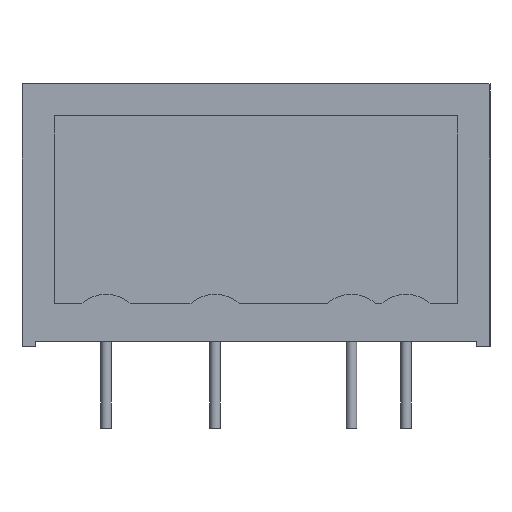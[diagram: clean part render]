
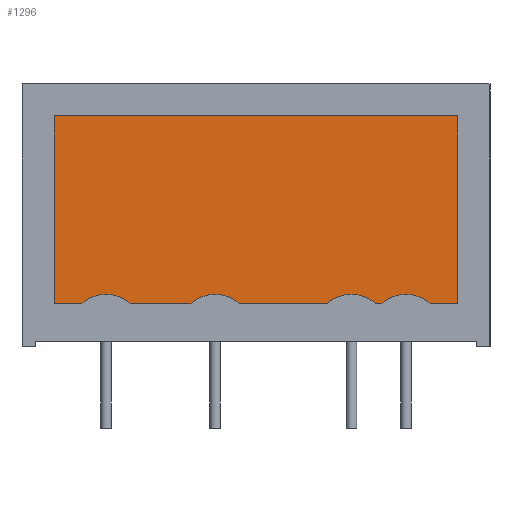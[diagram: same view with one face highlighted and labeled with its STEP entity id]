
A CAD part, left-side view. The second image highlights one B-rep face of the part: STEP entity #1296.
In plain terms, the highlighted planar face has unit normal (-1, 0, 0).
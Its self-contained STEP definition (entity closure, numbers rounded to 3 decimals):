
#990=CARTESIAN_POINT('',(-1.735,-6.645,4.));
#991=VERTEX_POINT('',#990);
#992=CARTESIAN_POINT('',(-1.735,1.565,4.));
#993=VERTEX_POINT('',#992);
#994=CARTESIAN_POINT('',(-1.735,-6.645,4.));
#995=DIRECTION('',(0.0,1.0,0.0));
#996=VECTOR('',#995,8.21);
#997=LINE('',#994,#996);
#998=EDGE_CURVE('',#991,#993,#997,.T.);
#1021=CARTESIAN_POINT('',(-1.735,6.055,4.));
#1022=VERTEX_POINT('',#1021);
#1023=CARTESIAN_POINT('',(-1.735,3.81,1.65));
#1024=DIRECTION('',(-1.0,0.0,0.0));
#1025=DIRECTION('',(0.0,0.0,1.0));
#1026=AXIS2_PLACEMENT_3D('',#1023,#1024,#1025);
#1027=CIRCLE('',#1026,3.25);
#1028=EDGE_CURVE('',#993,#1022,#1027,.T.);
#1046=CARTESIAN_POINT('',(-1.735,11.725,4.));
#1047=VERTEX_POINT('',#1046);
#1048=CARTESIAN_POINT('',(-1.735,6.055,4.));
#1049=DIRECTION('',(0.0,1.0,0.0));
#1050=VECTOR('',#1049,5.67);
#1051=LINE('',#1048,#1050);
#1052=EDGE_CURVE('',#1022,#1047,#1051,.T.);
#1070=CARTESIAN_POINT('',(-1.735,16.215,4.));
#1071=VERTEX_POINT('',#1070);
#1072=CARTESIAN_POINT('',(-1.735,13.97,1.65));
#1073=DIRECTION('',(-1.0,0.0,0.0));
#1074=DIRECTION('',(0.0,0.0,1.0));
#1075=AXIS2_PLACEMENT_3D('',#1072,#1073,#1074);
#1076=CIRCLE('',#1075,3.25);
#1077=EDGE_CURVE('',#1047,#1071,#1076,.T.);
#1095=CARTESIAN_POINT('',(-1.735,18.8,4.));
#1096=VERTEX_POINT('',#1095);
#1097=CARTESIAN_POINT('',(-1.735,16.215,4.));
#1098=DIRECTION('',(0.0,1.0,0.0));
#1099=VECTOR('',#1098,2.585);
#1100=LINE('',#1097,#1099);
#1101=EDGE_CURVE('',#1071,#1096,#1100,.T.);
#1119=CARTESIAN_POINT('',(-1.735,18.8,21.5));
#1120=VERTEX_POINT('',#1119);
#1121=CARTESIAN_POINT('',(-1.735,18.8,4.));
#1122=DIRECTION('',(0.0,0.0,1.0));
#1123=VECTOR('',#1122,17.5);
#1124=LINE('',#1121,#1123);
#1125=EDGE_CURVE('',#1096,#1120,#1124,.T.);
#1143=CARTESIAN_POINT('',(-1.735,-18.8,21.5));
#1144=VERTEX_POINT('',#1143);
#1145=CARTESIAN_POINT('',(-1.735,18.8,21.5));
#1146=DIRECTION('',(0.0,-1.0,0.0));
#1147=VECTOR('',#1146,37.6);
#1148=LINE('',#1145,#1147);
#1149=EDGE_CURVE('',#1120,#1144,#1148,.T.);
#1167=CARTESIAN_POINT('',(-1.735,-18.8,4.));
#1168=VERTEX_POINT('',#1167);
#1169=CARTESIAN_POINT('',(-1.735,-18.8,21.5));
#1170=DIRECTION('',(0.0,0.0,-1.0));
#1171=VECTOR('',#1170,17.5);
#1172=LINE('',#1169,#1171);
#1173=EDGE_CURVE('',#1144,#1168,#1172,.T.);
#1191=CARTESIAN_POINT('',(-1.735,-16.215,4.));
#1192=VERTEX_POINT('',#1191);
#1193=CARTESIAN_POINT('',(-1.735,-18.8,4.));
#1194=DIRECTION('',(0.0,1.0,0.0));
#1195=VECTOR('',#1194,2.585);
#1196=LINE('',#1193,#1195);
#1197=EDGE_CURVE('',#1168,#1192,#1196,.T.);
#1215=CARTESIAN_POINT('',(-1.735,-11.725,4.));
#1216=VERTEX_POINT('',#1215);
#1217=CARTESIAN_POINT('',(-1.735,-13.97,1.65));
#1218=DIRECTION('',(-1.0,0.0,0.0));
#1219=DIRECTION('',(0.0,0.0,1.0));
#1220=AXIS2_PLACEMENT_3D('',#1217,#1218,#1219);
#1221=CIRCLE('',#1220,3.25);
#1222=EDGE_CURVE('',#1192,#1216,#1221,.T.);
#1240=CARTESIAN_POINT('',(-1.735,-11.135,4.));
#1241=VERTEX_POINT('',#1240);
#1242=CARTESIAN_POINT('',(-1.735,-11.725,4.));
#1243=DIRECTION('',(0.0,1.0,0.0));
#1244=VECTOR('',#1243,0.59);
#1245=LINE('',#1242,#1244);
#1246=EDGE_CURVE('',#1216,#1241,#1245,.T.);
#1264=CARTESIAN_POINT('',(-1.735,-8.89,1.65));
#1265=DIRECTION('',(-1.0,0.0,0.0));
#1266=DIRECTION('',(0.0,0.0,1.0));
#1267=AXIS2_PLACEMENT_3D('',#1264,#1265,#1266);
#1268=CIRCLE('',#1267,3.25);
#1269=EDGE_CURVE('',#1241,#991,#1268,.T.);
#1277=CARTESIAN_POINT('',(-1.735,-6.645,4.));
#1278=DIRECTION('',(-1.0,0.0,0.0));
#1279=DIRECTION('',(0.0,-1.0,0.0));
#1280=AXIS2_PLACEMENT_3D('',#1277,#1278,#1279);
#1281=PLANE('',#1280);
#1282=ORIENTED_EDGE('',*,*,#998,.F.);
#1283=ORIENTED_EDGE('',*,*,#1269,.F.);
#1284=ORIENTED_EDGE('',*,*,#1246,.F.);
#1285=ORIENTED_EDGE('',*,*,#1222,.F.);
#1286=ORIENTED_EDGE('',*,*,#1197,.F.);
#1287=ORIENTED_EDGE('',*,*,#1173,.F.);
#1288=ORIENTED_EDGE('',*,*,#1149,.F.);
#1289=ORIENTED_EDGE('',*,*,#1125,.F.);
#1290=ORIENTED_EDGE('',*,*,#1101,.F.);
#1291=ORIENTED_EDGE('',*,*,#1077,.F.);
#1292=ORIENTED_EDGE('',*,*,#1052,.F.);
#1293=ORIENTED_EDGE('',*,*,#1028,.F.);
#1294=EDGE_LOOP('',(#1282,#1283,#1284,#1285,#1286,#1287,#1288,#1289,#1290,#1291,#1292,#1293));
#1295=FACE_OUTER_BOUND('',#1294,.T.);
#1296=ADVANCED_FACE('',(#1295),#1281,.T.);
